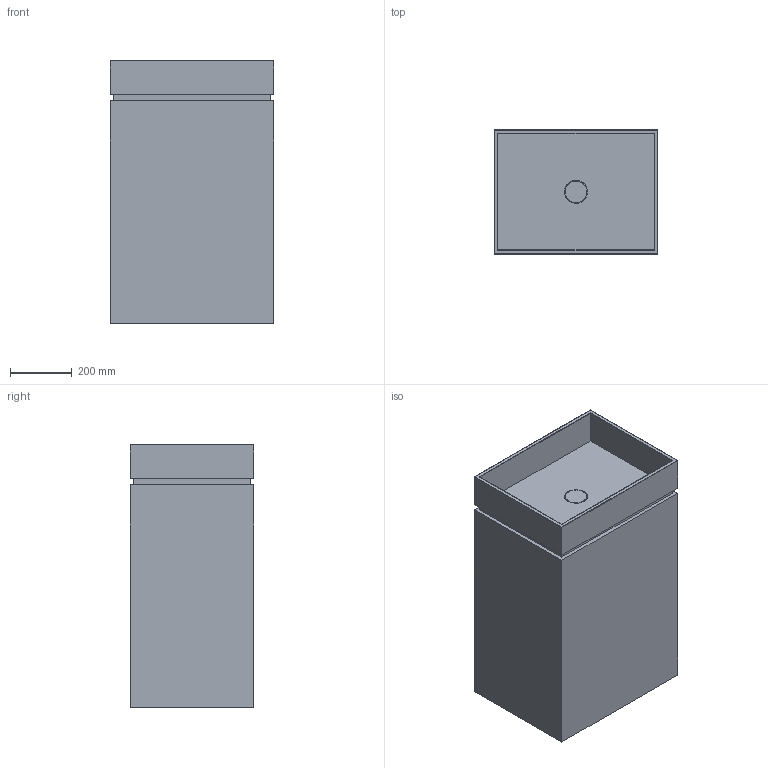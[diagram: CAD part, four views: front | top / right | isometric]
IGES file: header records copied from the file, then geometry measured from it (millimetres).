
Global section: file name: \\Archi-NAS\Comune\X GIOVANNI\SCHEDE PRODOTTO\LAVABI\FREESTANDING\TOWER PLUS\3D\MOMA DESIGN_LAVABI FREESTANDING_TOWER PLUS 1.igs; native system: Rhinoceros ( Jan 17 2018 ); preprocessor: Trout Lake IGES 012 Jan 17 2018; date: 230619.075156; units: millimetre
Bounding box: 530 x 400 x 850 mm (x, y, z)
Surface area: 3152748 mm2 (no closed solid volume)
Topology: 0 solids, 0 shells, 37 faces, 159 edges, 156 vertices
Faces by surface type: bspline 37
